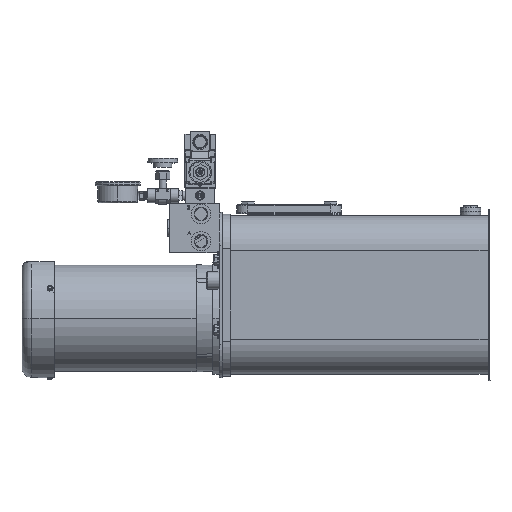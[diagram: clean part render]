
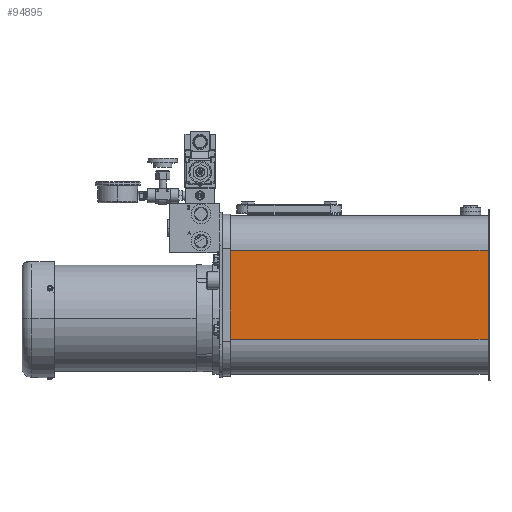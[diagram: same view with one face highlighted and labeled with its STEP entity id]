
A CAD part, top view. The second image highlights one B-rep face of the part: STEP entity #94895.
In plain terms, the highlighted planar face has unit normal (0, 0, 1).
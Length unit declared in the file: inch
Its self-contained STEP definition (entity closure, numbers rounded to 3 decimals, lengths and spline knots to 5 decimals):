
#4348 = EDGE_CURVE ( 'NONE', #104930, #107819, #138596, .T. ) ;
#8608 = LINE ( 'NONE', #121932, #66009 ) ;
#15793 = DIRECTION ( 'NONE',  ( 0., 0., -1. ) ) ;
#17242 = DIRECTION ( 'NONE',  ( 0., -1., 0. ) ) ;
#20562 = CARTESIAN_POINT ( 'NONE',  ( -0.48316, 10.75144, 18.42602 ) ) ;
#25169 = ORIENTED_EDGE ( 'NONE', *, *, #70727, .F. ) ;
#27783 = CARTESIAN_POINT ( 'NONE',  ( -0.48316, 12.87104, 18.42602 ) ) ;
#33260 = CARTESIAN_POINT ( 'NONE',  ( -0.48316, 12.87104, 18.42602 ) ) ;
#33339 = VERTEX_POINT ( 'NONE', #40723 ) ;
#33990 = DIRECTION ( 'NONE',  ( 0., 1., 0. ) ) ;
#40723 = CARTESIAN_POINT ( 'NONE',  ( 15.51684, 5.36564, 18.42602 ) ) ;
#44479 = LINE ( 'NONE', #33260, #92476 ) ;
#46537 = FACE_OUTER_BOUND ( 'NONE', #112161, .T. ) ;
#56119 = CARTESIAN_POINT ( 'NONE',  ( 15.51684, 10.75144, 18.42602 ) ) ;
#56820 = VERTEX_POINT ( 'NONE', #104094 ) ;
#57285 = ORIENTED_EDGE ( 'NONE', *, *, #72577, .F. ) ;
#57470 = CARTESIAN_POINT ( 'NONE',  ( -0.48316, 10.75144, 18.42602 ) ) ;
#59149 = AXIS2_PLACEMENT_3D ( 'NONE', #27783, #15793, #17242 ) ;
#64724 = DIRECTION ( 'NONE',  ( 1., 0., 0. ) ) ;
#66009 = VECTOR ( 'NONE', #112184, 39.37008 ) ;
#70727 = EDGE_CURVE ( 'NONE', #107819, #33339, #8608, .T. ) ;
#72577 = EDGE_CURVE ( 'NONE', #56820, #104930, #44479, .T. ) ;
#81241 = VECTOR ( 'NONE', #126542, 39.37008 ) ;
#82598 = VECTOR ( 'NONE', #64724, 39.37008 ) ;
#88742 = LINE ( 'NONE', #90208, #82598 ) ;
#90208 = CARTESIAN_POINT ( 'NONE',  ( -0.48316, 5.36564, 18.42602 ) ) ;
#92391 = PLANE ( 'NONE',  #59149 ) ;
#92476 = VECTOR ( 'NONE', #33990, 39.37008 ) ;
#93246 = EDGE_CURVE ( 'NONE', #56820, #33339, #88742, .T. ) ;
#94895 = ADVANCED_FACE ( 'NONE', ( #46537 ), #92391, .F. ) ;
#104094 = CARTESIAN_POINT ( 'NONE',  ( -0.48316, 5.36564, 18.42602 ) ) ;
#104930 = VERTEX_POINT ( 'NONE', #20562 ) ;
#106762 = ORIENTED_EDGE ( 'NONE', *, *, #4348, .F. ) ;
#107819 = VERTEX_POINT ( 'NONE', #56119 ) ;
#108181 = ORIENTED_EDGE ( 'NONE', *, *, #93246, .T. ) ;
#112161 = EDGE_LOOP ( 'NONE', ( #25169, #106762, #57285, #108181 ) ) ;
#112184 = DIRECTION ( 'NONE',  ( 0., -1., 0. ) ) ;
#121932 = CARTESIAN_POINT ( 'NONE',  ( 15.51684, 8.05854, 18.42602 ) ) ;
#126542 = DIRECTION ( 'NONE',  ( 1., 0., 0. ) ) ;
#138596 = LINE ( 'NONE', #57470, #81241 ) ;
